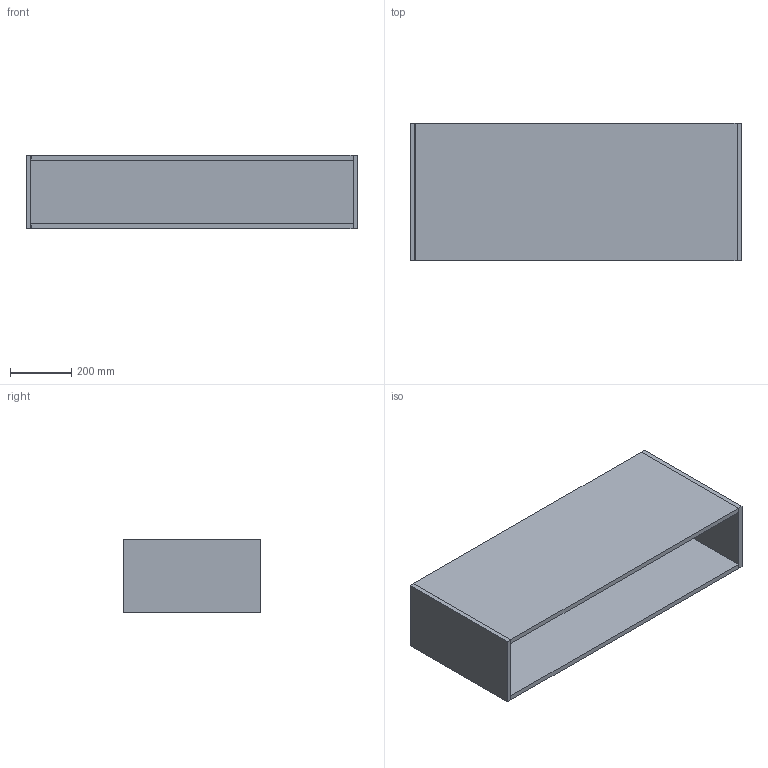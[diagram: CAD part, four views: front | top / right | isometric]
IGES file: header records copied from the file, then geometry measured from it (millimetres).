
Start section: Data from Parasolid IGES Translator 19.0.9, Copyright(c) 2006 Siemens PL M Software. All Rights Reserved.
Global section: file name: noorth-SI-H 24 D 47 W 108_8302.igs; native system: By Siemens PLM Incorporated; preprocessor: XPlus GENERIC/IGES 19.0.9; author: Noname; organization: Noname; date: 20200530.115504; units: metre
Bounding box: 1080.01 x 448.06 x 240 mm (x, y, z)
Volume: 19088664.3 mm3; surface area: 2891115.4 mm2
Topology: 5 solids, 5 shells, 30 faces, 60 edges, 40 vertices
Faces by surface type: plane 30
